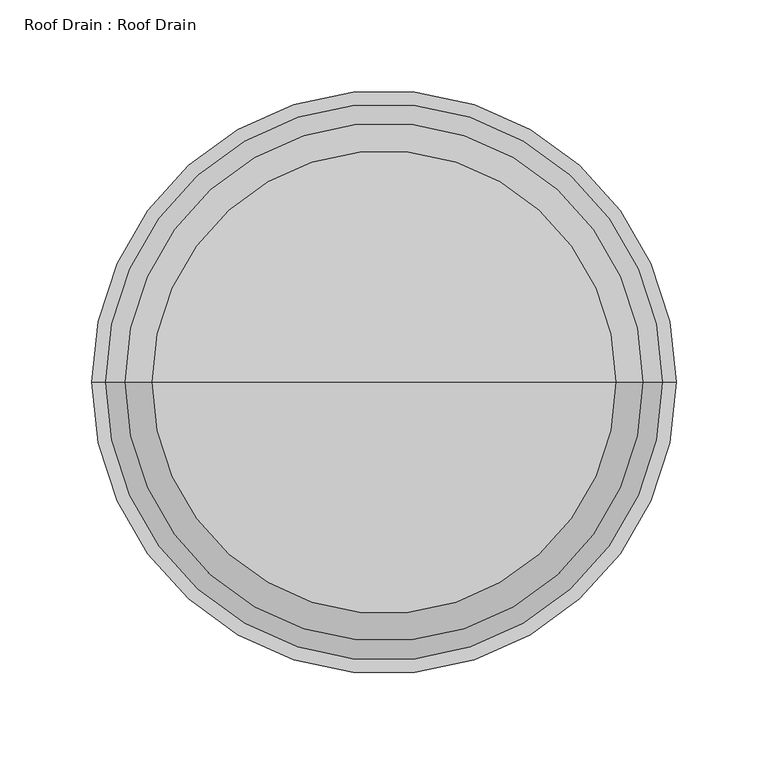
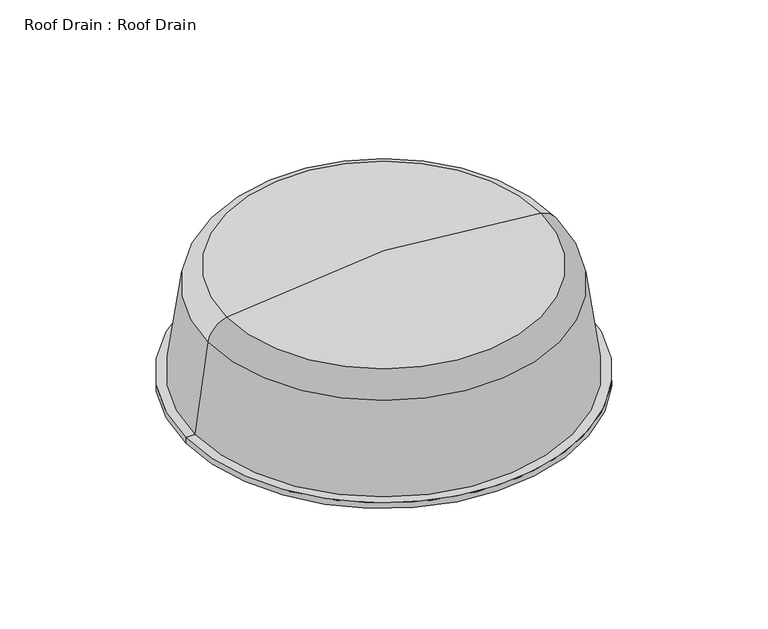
"""IFC4 building model written with IfcOpenShell, lengths in millimetres: proxy geometry, Roof Drain : Roof Drain."""

from ifc_helpers import new_model, si_unit, point, frame, origin, place, context, project, spatial, polyline, circle_curve, ellipse_curve, trimmed, source, transform, mapped, element, save
from ifc_brep_helpers import plane_surface, cylinder_surface, revolved_surface, advanced_brep


def roof_drain_roof_drain_c83bc157(model_context):
    return source(origin(), model_context, "Body", "AdvancedBrep", [
        advanced_brep(
        [(0.0, 0.0, 112.7125), (125.9005172, 0.0, 100.2336174), (-125.9005172, 0.0, 100.2336174), (-124.9656124, 0.0, 95.5637823), (124.9656124, 0.0, 95.5637823), (0.0, 0.0, 107.95), (-136.3100912, 0.0, 83.5374526), (136.3100912, 0.0, 83.5374526), (-147.3513245, 0.0, 4.7625), (147.3513245, 0.0, 4.7625), (-158.75, 0.0, 4.7625), (158.75, 0.0, 4.7625), (-158.75, 0.0, 9.525), (158.75, 0.0, 9.525), (-151.4928571, 0.0, 9.525), (151.4928571, 0.0, 9.525), (-141.026489, 0.0, 84.198511), (141.026489, 0.0, 84.198511)],
        [
            (0, 1, circle_curve(frame((0.0, 0.0, -528.6375), z_axis=(0.0, 1.0, 0.0), x_axis=(1.0, 0.0, 0.0)), 641.35)),
            (1, 2, circle_curve(frame((0.0, 0.0, 100.2336174), z_axis=(0.0, 0.0, 1.0), x_axis=(1.0, 0.0, 0.0)), 125.9005172)),
            (2, 0, circle_curve(frame((0.0, 0.0, -528.6375), z_axis=(0.0, 1.0, 0.0), x_axis=(-1.0, 0.0, 0.0)), 641.35)),
            (2, 1, circle_curve(frame((0.0, 0.0, 100.2336174), z_axis=(0.0, 0.0, 1.0), x_axis=(1.0, 0.0, 0.0)), 125.9005172)),
            (3, 4, circle_curve(frame((0.0, 0.0, 95.5637823), z_axis=(0.0, 0.0, -1.0), x_axis=(1.0, 0.0, 0.0)), 124.9656124)),
            (4, 5, circle_curve(frame((0.0, 0.0, -528.6375), z_axis=(0.0, -1.0, 0.0), x_axis=(1.0, 0.0, 0.0)), 636.5875)),
            (5, 3, circle_curve(frame((0.0, 0.0, -528.6375), z_axis=(0.0, -1.0, 0.0), x_axis=(-1.0, 0.0, 0.0)), 636.5875)),
            (4, 3, circle_curve(frame((0.0, 0.0, 95.5637823), z_axis=(0.0, 0.0, -1.0), x_axis=(1.0, 0.0, 0.0)), 124.9656124)),
            (6, 7, circle_curve(frame((0.0, 0.0, 83.5374526), z_axis=(0.0, 0.0, -1.0), x_axis=(1.0, 0.0, 0.0)), 136.3100912)),
            (7, 4, circle_curve(frame((122.1608979, 0.0, 81.5542772), z_axis=(0.0, -1.0, 0.0), x_axis=(1.0, 0.0, 0.0)), 14.2875)),
            (3, 6, circle_curve(frame((-122.1608979, 0.0, 81.5542772), z_axis=(0.0, -1.0, 0.0), x_axis=(-1.0, 0.0, 0.0)), 14.2875)),
            (7, 6, circle_curve(frame((0.0, 0.0, 83.5374526), z_axis=(0.0, 0.0, -1.0), x_axis=(1.0, 0.0, 0.0)), 136.3100912)),
            (8, 9, circle_curve(frame((0.0, 0.0, 4.7625), z_axis=(0.0, 0.0, -1.0), x_axis=(1.0, 0.0, 0.0)), 147.3513245)),
            (9, 7),
            (6, 8),
            (9, 8, circle_curve(frame((0.0, 0.0, 4.7625), z_axis=(0.0, 0.0, -1.0), x_axis=(1.0, 0.0, 0.0)), 147.3513245)),
            (10, 11, circle_curve(frame((0.0, 0.0, 4.7625), z_axis=(0.0, 0.0, -1.0), x_axis=(1.0, 0.0, 0.0)), 158.75)),
            (11, 9),
            (8, 10),
            (11, 10, circle_curve(frame((0.0, 0.0, 4.7625), z_axis=(0.0, 0.0, -1.0), x_axis=(1.0, 0.0, 0.0)), 158.75)),
            (12, 13, circle_curve(frame((0.0, 0.0, 9.525), z_axis=(0.0, 0.0, -1.0), x_axis=(1.0, 0.0, 0.0)), 158.75)),
            (13, 11),
            (10, 12),
            (13, 12, circle_curve(frame((0.0, 0.0, 9.525), z_axis=(0.0, 0.0, -1.0), x_axis=(1.0, 0.0, 0.0)), 158.75)),
            (14, 15, circle_curve(frame((0.0, 0.0, 9.525), z_axis=(0.0, 0.0, -1.0), x_axis=(1.0, 0.0, 0.0)), 151.4928571)),
            (15, 13),
            (12, 14),
            (15, 14, circle_curve(frame((0.0, 0.0, 9.525), z_axis=(0.0, 0.0, -1.0), x_axis=(1.0, 0.0, 0.0)), 151.4928571)),
            (16, 17, circle_curve(frame((0.0, 0.0, 84.198511), z_axis=(0.0, 0.0, -1.0), x_axis=(1.0, 0.0, 0.0)), 141.026489)),
            (17, 15),
            (14, 16),
            (17, 16, circle_curve(frame((0.0, 0.0, 84.198511), z_axis=(0.0, 0.0, -1.0), x_axis=(1.0, 0.0, 0.0)), 141.026489)),
            (1, 17, circle_curve(frame((122.1608979, 0.0, 81.5542772), z_axis=(0.0, 1.0, 0.0), x_axis=(1.0, 0.0, 0.0)), 19.05)),
            (16, 2, circle_curve(frame((-122.1608979, 0.0, 81.5542772), z_axis=(0.0, 1.0, 0.0), x_axis=(-1.0, 0.0, 0.0)), 19.05)),
        ],
        [
            revolved_surface(trimmed(ellipse_curve(frame((0.0, 0.0, -528.6375), z_axis=(0.0, -1.0, 0.0), x_axis=(1.0, 0.0, 0.0)), 641.35, 641.35), [point((125.9005172, 0.0, 100.2336174))], [point((0.0, 0.0, 112.7125))], True, "CARTESIAN"), (0.0, 0.0, -147.6375), (0.0, 0.0, 1.0)),
            revolved_surface(trimmed(ellipse_curve(frame((0.0, 0.0, -528.6375), z_axis=(0.0, 1.0, 0.0), x_axis=(1.0, 0.0, 0.0)), 636.5875, 636.5875), [point((0.0, 0.0, 107.95))], [point((124.9656124, 0.0, 95.5637823))], True, "CARTESIAN"), (0.0, 0.0, -147.6375), (0.0, 0.0, 1.0)),
            revolved_surface(trimmed(ellipse_curve(frame((122.1608979, 0.0, 81.5542772), z_axis=(0.0, 1.0, 0.0), x_axis=(1.0, 0.0, 0.0)), 14.2875, 14.2875), [point((124.9656124, 0.0, 95.5637823))], [point((136.3100912, 0.0, 83.5374526))], True, "CARTESIAN"), (0.0, 0.0, -147.6375), (0.0, 0.0, 1.0)),
            revolved_surface(polyline([(136.3100912, 0.0, 83.5374526), (147.3513245, 0.0, 4.7625)]), (0.0, 0.0, -147.6375), (0.0, 0.0, 1.0)),
            plane_surface(frame((0.0, 0.0, 4.7625), z_axis=(0.0, 0.0, -1.0), x_axis=(1.0, 0.0, 0.0))),
            cylinder_surface(frame((0.0, 0.0, -147.6375), z_axis=(0.0, 0.0, 1.0), x_axis=(1.0, 0.0, 0.0)), 158.75),
            plane_surface(frame((0.0, 0.0, 9.525), z_axis=(0.0, 0.0, 1.0), x_axis=(1.0, 0.0, 0.0))),
            revolved_surface(polyline([(151.4928571, 0.0, 9.525), (141.026489, 0.0, 84.198511)]), (0.0, 0.0, -147.6375), (0.0, 0.0, 1.0)),
            revolved_surface(trimmed(ellipse_curve(frame((122.1608979, 0.0, 81.5542772), z_axis=(0.0, -1.0, 0.0), x_axis=(1.0, 0.0, 0.0)), 19.05, 19.05), [point((141.026489, 0.0, 84.198511))], [point((125.9005172, 0.0, 100.2336174))], True, "CARTESIAN"), (0.0, 0.0, -147.6375), (0.0, 0.0, 1.0)),
        ],
        [
            (0, [[1, 2, 3]]),
            (0, [[-3, 4, -1]]),
            (1, [[5, 6, 7]]),
            (1, [[8, -7, -6]]),
            (2, [[9, 10, -5, 11]]),
            (2, [[12, -11, -8, -10]]),
            (3, [[13, 14, -9, 15]]),
            (3, [[16, -15, -12, -14]]),
            (4, [[17, 18, -13, 19]]),
            (4, [[20, -19, -16, -18]]),
            (5, [[21, 22, -17, 23]]),
            (5, [[24, -23, -20, -22]]),
            (6, [[25, 26, -21, 27]]),
            (6, [[28, -27, -24, -26]]),
            (7, [[29, 30, -25, 31]]),
            (7, [[32, -31, -28, -30]]),
            (8, [[-2, 33, -29, 34]]),
            (8, [[-4, -34, -32, -33]]),
        ],
    ),
    ])


if __name__ == "__main__":
    model = new_model("IFC4")
    model_context = context("Model", 3, world=origin())
    ifc_project = project(units=[si_unit("LENGTHUNIT", "METRE", prefix="MILLI")], contexts=[model_context])
    site = spatial("IfcSite", under=ifc_project)
    building = spatial("IfcBuilding", under=site)
    placement = place(None, origin())
    roof_drain_roof_drain_shape = roof_drain_roof_drain_c83bc157(model_context)
    element("IfcBuildingElementProxy", 1, Name="Roof Drain : Roof Drain", ObjectType="Roof Drain : Roof Drain", at=placement, inside=building, context=model_context, shape_type="MappedRepresentation", body=[
        mapped(roof_drain_roof_drain_shape, transform((0.0, 0.0, 0.0), x_axis=(1.0, 0.0, 0.0), y_axis=(0.0, 1.0, 0.0), z_axis=(0.0, 0.0, 1.0))),
    ])
    save(model, "model.ifc")
